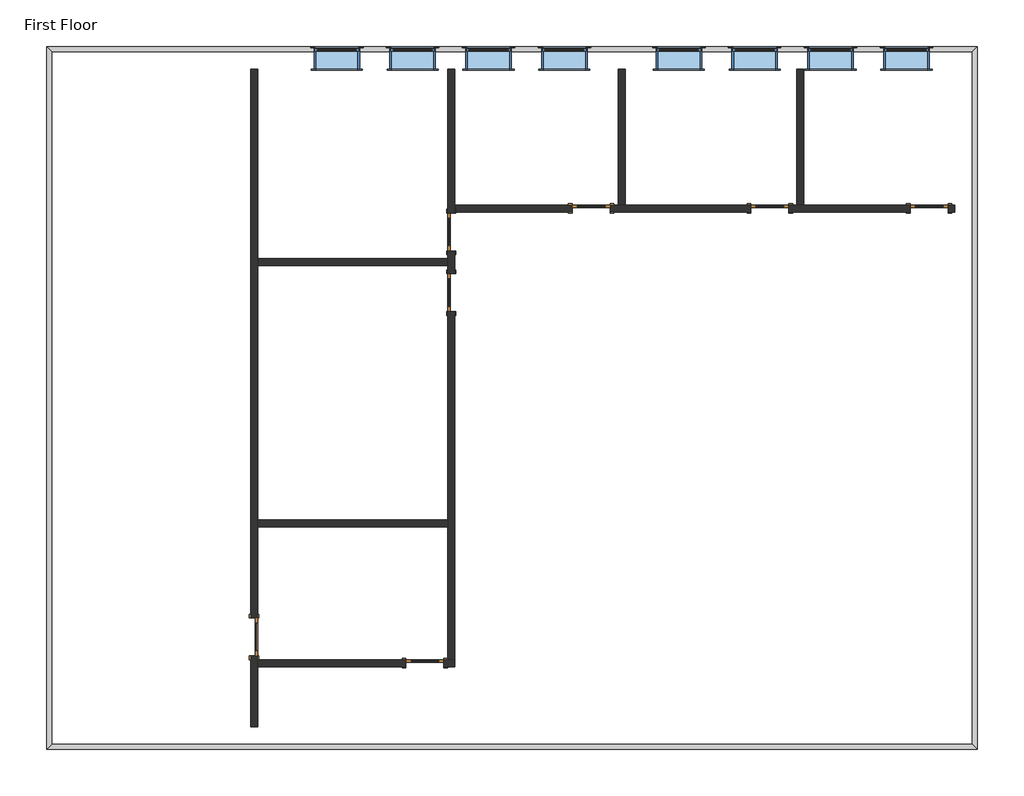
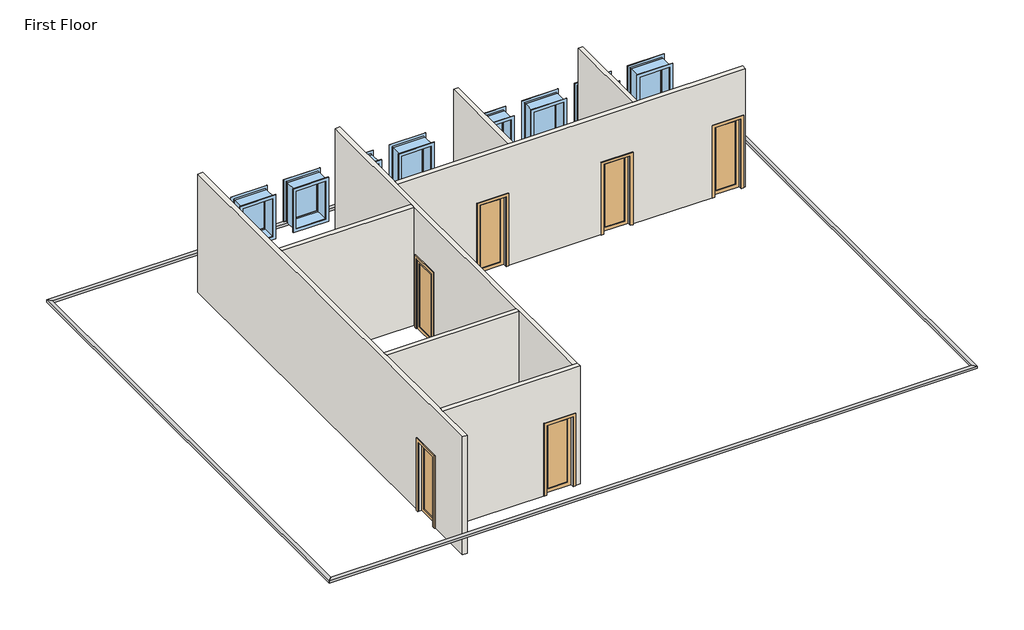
# One storey: 8 walls, 8 windows, 7 doors, 4 proxies.
"""IFC4 building model written with IfcOpenShell, lengths in millimetres."""

import ifcopenshell
import ifcopenshell.guid

model = None  # the IFC model being written
_history = None  # IfcOwnerHistory: only IFC2X3 demands one
_inside = {}  # id of a spatial element -> (the spatial element, [elements in it])
_under = {}  # id of a project, library or spatial element -> (it, [spatial elements below it])
_declared = {}  # id of a project -> (the project, [libraries it declares])
_typed = {}  # id of a type object -> (the type object, [elements of that type])
_made_of = {}  # id of a material, layer set ... -> (it, [elements and type objects made of it])


def new_model(schema):
    """Start an empty IFC model of exactly this schema.

    Asked for "IFC4X3", IfcOpenShell would pick the latest addendum, in which some entities
    have other attributes; the version numbers below select the first issue.
    IFC2X3 requires an IfcOwnerHistory on every rooted entity: one is made here for all.
    """
    global model, _history
    if schema == "IFC4X3":
        model = ifcopenshell.file(schema_version=(4, 3, 0, 0))
    else:
        model = ifcopenshell.file(schema=schema)
    _inside.clear()
    _under.clear()
    _declared.clear()
    _typed.clear()
    _made_of.clear()
    _history = None
    if model.schema == "IFC2X3":
        org = make("IfcOrganization", Name="unknown")
        user = make(
            "IfcPersonAndOrganization",
            ThePerson=make("IfcPerson", FamilyName="unknown"),
            TheOrganization=org,
        )
        app = make(
            "IfcApplication",
            ApplicationDeveloper=org,
            Version="unknown",
            ApplicationFullName="unknown",
            ApplicationIdentifier="unknown",
        )
        _history = make(
            "IfcOwnerHistory",
            OwningUser=user,
            OwningApplication=app,
            ChangeAction="ADDED",
            CreationDate=0,
        )
    return model


def make(cls, **values):
    """One entity of the class cls with the attributes given. An attribute that is None is left unset."""
    return model.create_entity(
        cls, **{name: value for name, value in values.items() if value is not None}
    )


def rooted(cls, **values):
    """An entity with a GlobalId (a new one), such as an element, a storey or a relation."""
    return make(cls, GlobalId=ifcopenshell.guid.new(), OwnerHistory=_history, **values)


def si_unit(unit_type, name, prefix=None):
    """IfcSIUnit, for example si_unit("LENGTHUNIT", "METRE", prefix="MILLI")."""
    return make("IfcSIUnit", UnitType=unit_type, Prefix=prefix, Name=name)


def assignment(units):
    """IfcUnitAssignment: the units of a project."""
    return None if units is None else make("IfcUnitAssignment", Units=units)


def point(xyz):
    """IfcCartesianPoint."""
    return None if xyz is None else make("IfcCartesianPoint", Coordinates=xyz)


def direction(xyz):
    """IfcDirection."""
    return None if xyz is None else make("IfcDirection", DirectionRatios=xyz)


def frame(location, z_axis=None, x_axis=None):
    """IfcAxis2Placement3D, a coordinate frame: its origin and axes. An axis left out is left unset."""
    return make(
        "IfcAxis2Placement3D",
        Location=point(location),
        Axis=direction(z_axis),
        RefDirection=direction(x_axis),
    )


def origin():
    """The frame at (0, 0, 0) with its axes left unset."""
    return frame((0.0, 0.0, 0.0))


def place(relative_to, where):
    """IfcLocalPlacement: puts the frame where relative to a parent placement (None: the world)."""
    return make(
        "IfcLocalPlacement", PlacementRelTo=relative_to, RelativePlacement=where
    )


def context(
    kind, dimensions, precision=None, world=None, true_north=None, identifier=None
):
    """IfcGeometricRepresentationContext, for example the 3D "Model" context."""
    return make(
        "IfcGeometricRepresentationContext",
        ContextIdentifier=identifier,
        ContextType=kind,
        CoordinateSpaceDimension=dimensions,
        Precision=precision,
        WorldCoordinateSystem=world,
        TrueNorth=true_north,
    )


def project(units=None, contexts=None):
    """IfcProject with its units and contexts."""
    return rooted(
        "IfcProject",
        Name="project",
        RepresentationContexts=contexts,
        UnitsInContext=assignment(units),
    )


def spatial(cls, under=None, at=None, **own):
    """A site, building, storey or space (cls), placed at a placement, below another one or the project."""
    s = rooted(cls, ObjectPlacement=at, **own)
    if under is not None:
        _under.setdefault(under.id(), (under, []))[1].append(s)
    return s


def polyline(points):
    """IfcPolyline through the points."""
    return make("IfcPolyline", Points=[point(p) for p in points])


def outline(outer, holes=None, kind="AREA"):
    """IfcArbitraryClosedProfileDef: a profile drawn as a closed curve; with holes, ...WithVoids."""
    if holes is None:
        return make("IfcArbitraryClosedProfileDef", ProfileType=kind, OuterCurve=outer)
    return make(
        "IfcArbitraryProfileDefWithVoids",
        ProfileType=kind,
        OuterCurve=outer,
        InnerCurves=holes,
    )


def extrude(swept, where, along, depth):
    """IfcExtrudedAreaSolid: the profile swept, set in the frame where, extruded along a direction by depth."""
    return make(
        "IfcExtrudedAreaSolid",
        SweptArea=swept,
        Position=where,
        ExtrudedDirection=direction(along),
        Depth=depth,
    )


def faces_of(points, faces, orient=None, outer=None):
    """IfcFace entities. A face is a list of loops; a loop is a list of indices into points, from 0.

    orient and outer hold one flag for each loop. By default every Orientation is true, the
    first loop of a face is its IfcFaceOuterBound and the others are IfcFaceBound.
    """
    made = []
    for i, loops in enumerate(faces):
        bounds = []
        for j, loop in enumerate(loops):
            is_outer = j == 0 if outer is None else outer[i][j]
            bounds.append(
                make(
                    "IfcFaceOuterBound" if is_outer else "IfcFaceBound",
                    Bound=make("IfcPolyLoop", Polygon=[points[k] for k in loop]),
                    Orientation=True if orient is None else orient[i][j],
                )
            )
        made.append(make("IfcFace", Bounds=bounds))
    return made


def faceted_brep(points, faces, orient=None, outer=None, voids=None):
    """IfcFacetedBrep: a solid bounded by flat faces; with voids (closed shells), ...WithVoids."""
    shared = [point(p) for p in points]
    hull = make("IfcClosedShell", CfsFaces=faces_of(shared, faces, orient, outer))
    if voids is None:
        return make("IfcFacetedBrep", Outer=hull)
    return make(
        "IfcFacetedBrepWithVoids",
        Outer=hull,
        Voids=[
            make(cls, CfsFaces=faces_of(shared, fs, o, b)) for cls, fs, o, b in voids
        ],
    )


def shape(context_of_items, identifier, shape_type, items):
    """IfcShapeRepresentation: the items that make up one representation, for example the "Body"."""
    return make(
        "IfcShapeRepresentation",
        ContextOfItems=context_of_items,
        RepresentationIdentifier=identifier,
        RepresentationType=shape_type,
        Items=items,
    )


def source(mapping_origin, context_of_items, identifier, shape_type, items):
    """IfcRepresentationMap: a shape defined once, which mapped items show again and again."""
    return make(
        "IfcRepresentationMap",
        MappingOrigin=mapping_origin,
        MappedRepresentation=shape(context_of_items, identifier, shape_type, items),
    )


def transform(
    local_origin,
    x_axis=None,
    y_axis=None,
    z_axis=None,
    scale=None,
    scale2=None,
    scale3=None,
    uniform=True,
):
    """IfcCartesianTransformationOperator3D, or its non-uniform kind. x_axis, y_axis, z_axis: its Axis1, 2, 3."""
    if uniform:
        return make(
            "IfcCartesianTransformationOperator3D",
            Axis1=direction(x_axis),
            Axis2=direction(y_axis),
            LocalOrigin=point(local_origin),
            Scale=scale,
            Axis3=direction(z_axis),
        )
    return make(
        "IfcCartesianTransformationOperator3DnonUniform",
        Axis1=direction(x_axis),
        Axis2=direction(y_axis),
        LocalOrigin=point(local_origin),
        Scale=scale,
        Axis3=direction(z_axis),
        Scale2=scale2,
        Scale3=scale3,
    )


def mapped(mapping_source, mapping_target):
    """IfcMappedItem: shows the shape of a source again, moved by a transform."""
    return make(
        "IfcMappedItem", MappingSource=mapping_source, MappingTarget=mapping_target
    )


def made_of(thing, what):
    """Note that an element or type object is made of a material, layer set ...; save() writes the relation."""
    if what is not None:
        _made_of.setdefault(what.id(), (what, []))[1].append(thing)
    return thing


def element(
    cls,
    number,
    at=None,
    inside=None,
    cuts=None,
    type_object=None,
    material=None,
    context=None,
    identifier="Body",
    shape_type=None,
    held_by="IfcProductDefinitionShape",
    body=None,
    shapes=None,
    **own,
):
    """One element of the class cls, such as IfcWall. Its Tag is "e" and its number.

    at: its placement. inside: the storey or other place that contains it. cuts: it is an
    opening in that element (IfcRelVoidsElement). A single representation is given by context,
    identifier, shape_type and body (its items); several are given by shapes. held_by: the class
    of the entity that holds the representations. save() writes the other relations.
    """
    e = rooted(cls, Tag="e%d" % number, ObjectPlacement=at, **own)
    if body is not None:
        shapes = [shape(context, identifier, shape_type, body)]
    if shapes is not None:
        e.Representation = make(held_by, Representations=shapes)
    if inside is not None:
        _inside.setdefault(inside.id(), (inside, []))[1].append(e)
    if cuts is not None:
        rooted(
            "IfcRelVoidsElement", RelatingBuildingElement=cuts, RelatedOpeningElement=e
        )
    if type_object is not None:
        _typed.setdefault(type_object.id(), (type_object, []))[1].append(e)
    return made_of(e, material)


def aggregate(whole, parts):
    """IfcRelAggregates: a whole, such as a stair, and the parts it consists of."""
    return rooted("IfcRelAggregates", RelatingObject=whole, RelatedObjects=parts)


def save(model, path):
    """Write the relations noted so far, then the file.

    IfcRelAggregates (storeys below a building ...), IfcRelContainedInSpatialStructure (elements
    in a storey), IfcRelDefinesByType, IfcRelAssociatesMaterial and IfcRelDeclares: one each for
    every whole, place, type object, material and project.
    """
    for whole, parts in _under.values():
        aggregate(whole, parts)
    for where, things in _inside.values():
        rooted(
            "IfcRelContainedInSpatialStructure",
            RelatedElements=things,
            RelatingStructure=where,
        )
    for kind, things in _typed.values():
        rooted("IfcRelDefinesByType", RelatedObjects=things, RelatingType=kind)
    for what, things in _made_of.values():
        rooted("IfcRelAssociatesMaterial", RelatedObjects=things, RelatingMaterial=what)
    for by, libraries in _declared.values():
        rooted("IfcRelDeclares", RelatingContext=by, RelatedDefinitions=libraries)
    model.write(path)


def m_single_glass_1_0762_x_2134mm_f7d00e6c(model_context):
    return source(origin(), model_context, "Body", "SweptSolid", [
        extrude(outline(polyline([(2134.0, 381.0), (0.0, 381.0), (0.0, 457.0), (2210.0, 457.0), (2210.0, -457.0), (0.0, -457.0), (0.0, -381.0), (2134.0, -381.0), (2134.0, 381.0)])), frame((0.0, 69.25, 0.0), z_axis=(0.0, 1.0, 0.0), x_axis=(0.0, 0.0, 1.0)), (0.0, 0.0, 1.0), 25.0),
        extrude(outline(polyline([(2134.0, 381.0), (0.0, 381.0), (0.0, 457.0), (2210.0, 457.0), (2210.0, -457.0), (0.0, -457.0), (0.0, -381.0), (2134.0, -381.0), (2134.0, 381.0)])), frame((0.0, -94.25, 0.0), z_axis=(0.0, 1.0, 0.0), x_axis=(0.0, 0.0, 1.0)), (0.0, 0.0, 1.0), 25.0),
        extrude(outline(polyline([(279.0, -40.675), (279.0, -47.025), (-279.0, -47.025), (-279.0, -40.675), (279.0, -40.675)])), frame((0.0, 0.0, 102.0), z_axis=(0.0, 0.0, 1.0), x_axis=(1.0, 0.0, 0.0)), (0.0, 0.0, 1.0), 1930.0),
        extrude(outline(polyline([(2134.0, 381.0), (2134.0, -381.0), (0.0, -381.0), (0.0, 381.0), (2134.0, 381.0)]), holes=[polyline([(2032.0, -279.0), (2032.0, 279.0), (102.0, 279.0), (102.0, -279.0), (2032.0, -279.0)])]), frame((0.0, -69.25, 0.0), z_axis=(0.0, 1.0, 0.0), x_axis=(0.0, 0.0, 1.0)), (0.0, 0.0, 1.0), 51.0),
    ])


def m_single_glass_1_0762_x_2134mm_cf50c2e0(model_context):
    return source(origin(), model_context, "Body", "SweptSolid", [
        extrude(outline(polyline([(2134.0, 381.0), (0.0, 381.0), (0.0, 457.0), (2210.0, 457.0), (2210.0, -457.0), (0.0, -457.0), (0.0, -381.0), (2134.0, -381.0), (2134.0, 381.0)])), frame((0.0, -94.25, 0.0), z_axis=(0.0, 1.0, 0.0), x_axis=(0.0, 0.0, 1.0)), (0.0, 0.0, 1.0), 25.0),
        extrude(outline(polyline([(2134.0, 381.0), (0.0, 381.0), (0.0, 457.0), (2210.0, 457.0), (2210.0, -457.0), (0.0, -457.0), (0.0, -381.0), (2134.0, -381.0), (2134.0, 381.0)])), frame((0.0, 69.25, 0.0), z_axis=(0.0, 1.0, 0.0), x_axis=(0.0, 0.0, 1.0)), (0.0, 0.0, 1.0), 25.0),
        extrude(outline(polyline([(279.0, 40.675), (-279.0, 40.675), (-279.0, 47.025), (279.0, 47.025), (279.0, 40.675)])), frame((0.0, 0.0, 102.0), z_axis=(0.0, 0.0, 1.0), x_axis=(1.0, 0.0, 0.0)), (0.0, 0.0, 1.0), 1930.0),
        extrude(outline(polyline([(2134.0, 381.0), (2134.0, -381.0), (0.0, -381.0), (0.0, 381.0), (2134.0, 381.0)]), holes=[polyline([(2032.0, -279.0), (2032.0, 279.0), (102.0, 279.0), (102.0, -279.0), (2032.0, -279.0)])]), frame((0.0, 18.25, 0.0), z_axis=(0.0, 1.0, 0.0), x_axis=(0.0, 0.0, 1.0)), (0.0, 0.0, 1.0), 51.0),
    ])


def m_awning_with_trim_0915_x_1220mm_2caa384f(model_context):
    return source(origin(), model_context, "Body", "SweptSolid", [
        extrude(outline(polyline([(-527.45, -240.2), (-527.45, -214.5), (527.45, -214.5), (527.45, -240.2), (-527.45, -240.2)])), frame((0.0, 0.0, 915.0), z_axis=(0.0, 0.0, 1.0), x_axis=(1.0, 0.0, 0.0)), (0.0, 0.0, 1.0), 19.05),
        extrude(outline(polyline([(2115.95, -438.45), (2115.95, 438.45), (934.05, 438.45), (934.05, 527.45), (2204.95, 527.45), (2204.95, -527.45), (934.05, -527.45), (934.05, -438.45), (2115.95, -438.45)])), frame((0.0, -227.5, 0.0), z_axis=(0.0, 1.0, 0.0), x_axis=(0.0, 0.0, 1.0)), (0.0, 0.0, 1.0), 13.0),
        extrude(outline(polyline([(2192.25, 514.75), (2192.25, -514.75), (857.75, -514.75), (857.75, 514.75), (2192.25, 514.75)]), holes=[polyline([(2103.25, 425.75), (946.75, 425.75), (946.75, -425.75), (2103.25, -425.75), (2103.25, 425.75)])]), frame((0.0, 214.5, 0.0), z_axis=(0.0, 1.0, 0.0), x_axis=(0.0, 0.0, 1.0)), (0.0, 0.0, 1.0), 19.0),
        extrude(outline(polyline([(394.0, -166.925), (394.0, -179.625), (-394.0, -179.625), (-394.0, -166.925), (394.0, -166.925)])), frame((0.0, 0.0, 978.5), z_axis=(0.0, 0.0, 1.0), x_axis=(1.0, 0.0, 0.0)), (0.0, 0.0, 1.0), 1093.0),
        extrude(outline(polyline([(2115.95, -438.45), (934.05, -438.45), (934.05, 438.45), (2115.95, 438.45), (2115.95, -438.45)]), holes=[polyline([(2071.5, -394.0), (2071.5, 394.0), (978.5, 394.0), (978.5, -394.0), (2071.5, -394.0)])]), frame((0.0, -195.5, 0.0), z_axis=(0.0, 1.0, 0.0), x_axis=(0.0, 0.0, 1.0)), (0.0, 0.0, 1.0), 44.45),
        extrude(outline(polyline([(2135.0, -457.5), (915.0, -457.5), (915.0, 457.5), (2135.0, 457.5), (2135.0, -457.5)]), holes=[polyline([(2103.25, -425.75), (2103.25, 425.75), (946.75, 425.75), (946.75, -425.75), (2103.25, -425.75)])]), frame((0.0, -151.05, 0.0), z_axis=(0.0, 1.0, 0.0), x_axis=(0.0, 0.0, 1.0)), (0.0, 0.0, 1.0), 365.55),
        extrude(outline(polyline([(2135.0, 457.5), (2135.0, -457.5), (915.0, -457.5), (915.0, 457.5), (2135.0, 457.5)]), holes=[polyline([(2115.95, 438.45), (934.05, 438.45), (934.05, -438.45), (2115.95, -438.45), (2115.95, 438.45)])]), frame((0.0, -214.5, 0.0), z_axis=(0.0, 1.0, 0.0), x_axis=(0.0, 0.0, 1.0)), (0.0, 0.0, 1.0), 63.45),
    ])


def m_awning_with_trim_0915_x_1220mm_1a66d356(model_context):
    return source(origin(), model_context, "Body", "SweptSolid", [
        extrude(outline(polyline([(-527.45, 240.2), (527.45, 240.2), (527.45, 214.5), (-527.45, 214.5), (-527.45, 240.2)])), frame((0.0, 0.0, 915.0), z_axis=(0.0, 0.0, 1.0), x_axis=(1.0, 0.0, 0.0)), (0.0, 0.0, 1.0), 19.05),
        extrude(outline(polyline([(2115.95, -438.45), (2115.95, 438.45), (934.05, 438.45), (934.05, 527.45), (2204.95, 527.45), (2204.95, -527.45), (934.05, -527.45), (934.05, -438.45), (2115.95, -438.45)])), frame((0.0, 214.5, 0.0), z_axis=(0.0, 1.0, 0.0), x_axis=(0.0, 0.0, 1.0)), (0.0, 0.0, 1.0), 13.0),
        extrude(outline(polyline([(2192.25, 514.75), (2192.25, -514.75), (857.75, -514.75), (857.75, 514.75), (2192.25, 514.75)]), holes=[polyline([(2103.25, 425.75), (946.75, 425.75), (946.75, -425.75), (2103.25, -425.75), (2103.25, 425.75)])]), frame((0.0, -233.5, 0.0), z_axis=(0.0, 1.0, 0.0), x_axis=(0.0, 0.0, 1.0)), (0.0, 0.0, 1.0), 19.0),
        extrude(outline(polyline([(394.0, 166.925), (-394.0, 166.925), (-394.0, 179.625), (394.0, 179.625), (394.0, 166.925)])), frame((0.0, 0.0, 978.5), z_axis=(0.0, 0.0, 1.0), x_axis=(1.0, 0.0, 0.0)), (0.0, 0.0, 1.0), 1093.0),
        extrude(outline(polyline([(2115.95, -438.45), (934.05, -438.45), (934.05, 438.45), (2115.95, 438.45), (2115.95, -438.45)]), holes=[polyline([(2071.5, -394.0), (2071.5, 394.0), (978.5, 394.0), (978.5, -394.0), (2071.5, -394.0)])]), frame((0.0, 151.05, 0.0), z_axis=(0.0, 1.0, 0.0), x_axis=(0.0, 0.0, 1.0)), (0.0, 0.0, 1.0), 44.45),
        extrude(outline(polyline([(2135.0, -457.5), (915.0, -457.5), (915.0, 457.5), (2135.0, 457.5), (2135.0, -457.5)]), holes=[polyline([(2103.25, -425.75), (2103.25, 425.75), (946.75, 425.75), (946.75, -425.75), (2103.25, -425.75)])]), frame((0.0, -214.5, 0.0), z_axis=(0.0, 1.0, 0.0), x_axis=(0.0, 0.0, 1.0)), (0.0, 0.0, 1.0), 365.55),
        extrude(outline(polyline([(2135.0, 457.5), (2135.0, -457.5), (915.0, -457.5), (915.0, 457.5), (2135.0, 457.5)]), holes=[polyline([(2115.95, 438.45), (934.05, 438.45), (934.05, -438.45), (2115.95, -438.45), (2115.95, 438.45)])]), frame((0.0, 151.05, 0.0), z_axis=(0.0, 1.0, 0.0), x_axis=(0.0, 0.0, 1.0)), (0.0, 0.0, 1.0), 63.45),
    ])


model = new_model("IFC4")

# Units and contexts
model_context = context("Model", 3, world=origin())
ifc_project = project(units=[si_unit("LENGTHUNIT", "METRE", prefix="MILLI")], contexts=[model_context])

# Site, building, storey
site = spatial("IfcSite", under=ifc_project)
building = spatial("IfcBuilding", under=site)
storey = spatial("IfcBuildingStorey", under=building, Name="First Floor", Elevation=3600.0)

# Proxies
placement = place(None, origin())
element("IfcBuildingElementProxy", 1, Name="Reveals", at=placement, inside=storey, context=model_context, shape_type="SweptSolid", body=[
    extrude(outline(polyline([(-1525.2150684, 3743.407772), (-1627.7150684, 3845.907772), (17077.2849316, 3845.907772), (16974.7849316, 3743.407772), (-1525.2150684, 3743.407772)])), frame((0.0, 0.0, 4449.0), z_axis=(0.0, 0.0, 1.0), x_axis=(1.0, 0.0, 0.0)), (0.0, 0.0, 1.0), 75.0),
])
element("IfcBuildingElementProxy", 2, Name="Reveals", at=placement, inside=storey, context=model_context, shape_type="SweptSolid", body=[
    extrude(outline(polyline([(-1525.2150684, -10184.592228), (-1627.7150684, -10287.092228), (-1627.7150684, 3845.907772), (-1525.2150684, 3743.407772), (-1525.2150684, -10184.592228)])), frame((0.0, 0.0, 4449.0), z_axis=(0.0, 0.0, 1.0), x_axis=(1.0, 0.0, 0.0)), (0.0, 0.0, 1.0), 75.0),
])
element("IfcBuildingElementProxy", 3, Name="Reveals", at=placement, inside=storey, context=model_context, shape_type="SweptSolid", body=[
    extrude(outline(polyline([(16974.7849316, -10184.592228), (17077.2849316, -10287.092228), (-1627.7150684, -10287.092228), (-1525.2150684, -10184.592228), (16974.7849316, -10184.592228)])), frame((0.0, 0.0, 4449.0), z_axis=(0.0, 0.0, 1.0), x_axis=(1.0, 0.0, 0.0)), (0.0, 0.0, 1.0), 75.0),
])
element("IfcBuildingElementProxy", 4, Name="Reveals", at=placement, inside=storey, context=model_context, shape_type="SweptSolid", body=[
    extrude(outline(polyline([(16974.7849316, 3743.407772), (17077.2849316, 3845.907772), (17077.2849316, -10287.092228), (16974.7849316, -10184.592228), (16974.7849316, 3743.407772)])), frame((0.0, 0.0, 4449.0), z_axis=(0.0, 0.0, 1.0), x_axis=(1.0, 0.0, 0.0)), (0.0, 0.0, 1.0), 75.0),
])

# Doors
m_single_glass_1_0762_x_2134mm_shape = m_single_glass_1_0762_x_2134mm_f7d00e6c(model_context)
element("IfcDoor", 5, ObjectType="M_Single-Glass 1 : 0762 x 2134mm", at=placement, inside=storey, context=model_context, shape_type="MappedRepresentation", body=[
    mapped(m_single_glass_1_0762_x_2134mm_shape, transform((6504.7849316, 118.507772, 3600.0), x_axis=(0.0, -1.0, 0.0), y_axis=(1.0, 0.0, 0.0), z_axis=(0.0, 0.0, 1.0))),
])
m_single_glass_1_0762_x_2134mm_2_shape = m_single_glass_1_0762_x_2134mm_cf50c2e0(model_context)
element("IfcDoor", 6, ObjectType="M_Single-Glass 1 : 0762 x 2134mm", at=placement, inside=storey, context=model_context, shape_type="MappedRepresentation", body=[
    mapped(m_single_glass_1_0762_x_2134mm_2_shape, transform((2542.7849316, -8025.342228, 3600.0), x_axis=(0.0, -1.0, 0.0), y_axis=(1.0, 0.0, 0.0), z_axis=(0.0, 0.0, 1.0))),
])
element("IfcDoor", 7, ObjectType="M_Single-Glass 1 : 0762 x 2134mm", at=placement, inside=storey, context=model_context, shape_type="MappedRepresentation", body=[
    mapped(m_single_glass_1_0762_x_2134mm_2_shape, transform((5975.5349316, -8554.592228, 3600.0), x_axis=(1.0, 0.0, 0.0), y_axis=(0.0, 1.0, 0.0), z_axis=(0.0, 0.0, 1.0))),
])
element("IfcDoor", 8, ObjectType="M_Single-Glass 1 : 0762 x 2134mm", at=placement, inside=storey, context=model_context, shape_type="MappedRepresentation", body=[
    mapped(m_single_glass_1_0762_x_2134mm_2_shape, transform((6504.7849316, -1101.492228, 3600.0), x_axis=(0.0, 1.0, 0.0), y_axis=(-1.0, 0.0, 0.0), z_axis=(0.0, 0.0, 1.0))),
])
element("IfcDoor", 9, ObjectType="M_Single-Glass 1 : 0762 x 2134mm", at=placement, inside=storey, context=model_context, shape_type="MappedRepresentation", body=[
    mapped(m_single_glass_1_0762_x_2134mm_2_shape, transform((9317.0349316, 589.407772, 3600.0), x_axis=(1.0, 0.0, 0.0), y_axis=(0.0, 1.0, 0.0), z_axis=(0.0, 0.0, 1.0))),
])
element("IfcDoor", 10, ObjectType="M_Single-Glass 1 : 0762 x 2134mm", at=placement, inside=storey, context=model_context, shape_type="MappedRepresentation", body=[
    mapped(m_single_glass_1_0762_x_2134mm_2_shape, transform((12905.7849316, 589.407772, 3600.0), x_axis=(1.0, 0.0, 0.0), y_axis=(0.0, 1.0, 0.0), z_axis=(0.0, 0.0, 1.0))),
])
element("IfcDoor", 11, ObjectType="M_Single-Glass 1 : 0762 x 2134mm", at=placement, inside=storey, context=model_context, shape_type="MappedRepresentation", body=[
    mapped(m_single_glass_1_0762_x_2134mm_2_shape, transform((16106.7849316, 589.407772, 3600.0), x_axis=(1.0, 0.0, 0.0), y_axis=(0.0, 1.0, 0.0), z_axis=(0.0, 0.0, 1.0))),
])

# Walls
element("IfcWall", 12, ObjectType="Interior - 138mm Partition (1-hr)", at=placement, inside=storey, context=model_context, shape_type="Brep", body=[
    faceted_brep([(2473.5349316, -8406.342228, 5734.0), (2473.5349316, -8406.342228, 3600.0), (2473.5349316, -9830.592228, 3600.0), (2473.5349316, -9830.592228, 7200.0), (2473.5349316, 3389.407772, 7200.0), (2473.5349316, 3389.407772, 3600.0), (2473.5349316, -7644.342228, 3600.0), (2473.5349316, -7644.342228, 5734.0), (2612.0349316, -9830.592228, 3600.0), (2612.0349316, -8623.842228, 3600.0), (2612.0349316, -8485.342228, 3600.0), (2612.0349316, -8406.342228, 3600.0), (2612.0349316, -8406.342228, 5734.0), (2612.0349316, -7644.342228, 5734.0), (2612.0349316, -7644.342228, 3600.0), (2612.0349316, -5811.592228, 3600.0), (2612.0349316, -5673.092228, 3600.0), (2612.0349316, -560.742228, 3600.0), (2612.0349316, -422.242228, 3600.0), (2612.0349316, 3389.407772, 3600.0), (2612.0349316, 3389.407772, 7200.0), (2612.0349316, -422.242228, 7200.0), (2612.0349316, -560.742228, 7200.0), (2612.0349316, -5673.092228, 7200.0), (2612.0349316, -5811.592228, 7200.0), (2612.0349316, -8485.342228, 7200.0), (2612.0349316, -8623.842228, 7200.0), (2612.0349316, -9830.592228, 7200.0)], [[[0, 1, 2, 3, 4, 5, 6, 7]], [[8, 9, 10, 11, 12, 13, 14, 15, 16, 17, 18, 19, 20, 21, 22, 23, 24, 25, 26, 27]], [[6, 5, 19, 18, 17, 16, 15, 14]], [[2, 1, 11, 10, 9, 8]], [[4, 3, 27, 26, 25, 24, 23, 22, 21, 20]], [[12, 11, 1, 0]], [[13, 12, 0, 7]], [[14, 13, 7, 6]], [[5, 4, 20, 19]], [[3, 2, 8, 27]]]),
])
element("IfcWall", 13, ObjectType="Interior - 138mm Partition (1-hr)", at=placement, inside=storey, context=model_context, shape_type="Brep", body=[
    faceted_brep([(6356.5349316, -8623.842228, 5734.0), (6356.5349316, -8623.842228, 3600.0), (6574.0349316, -8623.842228, 3600.0), (6574.0349316, -8623.842228, 7200.0), (2612.0349316, -8623.842228, 7200.0), (2612.0349316, -8623.842228, 3600.0), (5594.5349316, -8623.842228, 3600.0), (5594.5349316, -8623.842228, 5734.0), (6574.0349316, -8485.342228, 3600.0), (6435.5349316, -8485.342228, 3600.0), (6356.5349316, -8485.342228, 3600.0), (6356.5349316, -8485.342228, 5734.0), (5594.5349316, -8485.342228, 5734.0), (5594.5349316, -8485.342228, 3600.0), (2612.0349316, -8485.342228, 3600.0), (2612.0349316, -8485.342228, 7200.0), (6435.5349316, -8485.342228, 7200.0), (6574.0349316, -8485.342228, 7200.0)], [[[0, 1, 2, 3, 4, 5, 6, 7]], [[8, 9, 10, 11, 12, 13, 14, 15, 16, 17]], [[6, 5, 14, 13]], [[2, 1, 10, 9, 8]], [[4, 3, 17, 16, 15]], [[5, 4, 15, 14]], [[3, 2, 8, 17]], [[11, 10, 1, 0]], [[12, 11, 0, 7]], [[13, 12, 7, 6]]]),
])
element("IfcWall", 14, ObjectType="Interior - 138mm Partition (1-hr)", at=placement, inside=storey, context=model_context, shape_type="Brep", body=[
    faceted_brep([(6574.0349316, -720.492228, 3600.0), (6574.0349316, -262.492228, 3600.0), (6574.0349316, -262.492228, 5734.0), (6574.0349316, 499.507772, 5734.0), (6574.0349316, 499.507772, 3600.0), (6574.0349316, 520.157772, 3600.0), (6574.0349316, 658.657772, 3600.0), (6574.0349316, 3389.407772, 3600.0), (6574.0349316, 3389.407772, 7200.0), (6574.0349316, 658.657772, 7200.0), (6574.0349316, 520.157772, 7200.0), (6574.0349316, -8485.342228, 7200.0), (6574.0349316, -8485.342228, 3600.0), (6574.0349316, -1482.492228, 3600.0), (6574.0349316, -1482.492228, 5734.0), (6574.0349316, -720.492228, 5734.0), (6435.5349316, -262.492228, 5734.0), (6435.5349316, -262.492228, 3600.0), (6435.5349316, -422.242228, 3600.0), (6435.5349316, -560.742228, 3600.0), (6435.5349316, -720.492228, 3600.0), (6435.5349316, -720.492228, 5734.0), (6435.5349316, -1482.492228, 5734.0), (6435.5349316, -1482.492228, 3600.0), (6435.5349316, -5673.092228, 3600.0), (6435.5349316, -5811.592228, 3600.0), (6435.5349316, -8485.342228, 3600.0), (6435.5349316, -8485.342228, 7200.0), (6435.5349316, -5811.592228, 7200.0), (6435.5349316, -5673.092228, 7200.0), (6435.5349316, -560.742228, 7200.0), (6435.5349316, -422.242228, 7200.0), (6435.5349316, 3389.407772, 7200.0), (6435.5349316, 3389.407772, 3600.0), (6435.5349316, 499.507772, 3600.0), (6435.5349316, 499.507772, 5734.0)], [[[0, 1, 2, 3, 4, 5, 6, 7, 8, 9, 10, 11, 12, 13, 14, 15]], [[16, 17, 18, 19, 20, 21, 22, 23, 24, 25, 26, 27, 28, 29, 30, 31, 32, 33, 34, 35]], [[13, 12, 26, 25, 24, 23]], [[34, 33, 7, 6, 5, 4]], [[20, 19, 18, 17, 1, 0]], [[11, 10, 9, 8, 32, 31, 30, 29, 28, 27]], [[12, 11, 27, 26]], [[21, 20, 0, 15]], [[22, 21, 15, 14]], [[23, 22, 14, 13]], [[2, 1, 17, 16]], [[3, 2, 16, 35]], [[4, 3, 35, 34]], [[8, 7, 33, 32]]]),
])
element("IfcWall", 15, ObjectType="Interior - 138mm Partition (1-hr)", at=placement, inside=storey, context=model_context, shape_type="Brep", body=[
    faceted_brep([(16620.7849316, 658.657772, 3600.0), (16487.7849316, 658.657772, 3600.0), (16487.7849316, 658.657772, 5734.0), (15725.7849316, 658.657772, 5734.0), (15725.7849316, 658.657772, 3600.0), (13585.0349316, 658.657772, 3600.0), (13446.5349316, 658.657772, 3600.0), (13286.7849316, 658.657772, 3600.0), (13286.7849316, 658.657772, 5734.0), (12524.7849316, 658.657772, 5734.0), (12524.7849316, 658.657772, 3600.0), (9996.2849316, 658.657772, 3600.0), (9857.7849316, 658.657772, 3600.0), (9698.0349316, 658.657772, 3600.0), (9698.0349316, 658.657772, 5734.0), (8936.0349316, 658.657772, 5734.0), (8936.0349316, 658.657772, 3600.0), (6574.0349316, 658.657772, 3600.0), (6574.0349316, 658.657772, 7200.0), (9857.7849316, 658.657772, 7200.0), (9996.2849316, 658.657772, 7200.0), (13446.5349316, 658.657772, 7200.0), (13585.0349316, 658.657772, 7200.0), (16620.7849316, 658.657772, 7200.0), (16487.7849316, 520.157772, 5734.0), (16487.7849316, 520.157772, 3600.0), (16620.7849316, 520.157772, 3600.0), (16620.7849316, 520.157772, 7200.0), (6574.0349316, 520.157772, 7200.0), (6574.0349316, 520.157772, 3600.0), (8936.0349316, 520.157772, 3600.0), (8936.0349316, 520.157772, 5734.0), (9698.0349316, 520.157772, 5734.0), (9698.0349316, 520.157772, 3600.0), (12524.7849316, 520.157772, 3600.0), (12524.7849316, 520.157772, 5734.0), (13286.7849316, 520.157772, 5734.0), (13286.7849316, 520.157772, 3600.0), (15725.7849316, 520.157772, 3600.0), (15725.7849316, 520.157772, 5734.0)], [[[0, 1, 2, 3, 4, 5, 6, 7, 8, 9, 10, 11, 12, 13, 14, 15, 16, 17, 18, 19, 20, 21, 22, 23]], [[24, 25, 26, 27, 28, 29, 30, 31, 32, 33, 34, 35, 36, 37, 38, 39]], [[30, 29, 17, 16]], [[34, 33, 13, 12, 11, 10]], [[38, 37, 7, 6, 5, 4]], [[26, 25, 1, 0]], [[23, 22, 21, 20, 19, 18, 28, 27]], [[18, 17, 29, 28]], [[14, 13, 33, 32]], [[15, 14, 32, 31]], [[16, 15, 31, 30]], [[8, 7, 37, 36]], [[9, 8, 36, 35]], [[10, 9, 35, 34]], [[2, 1, 25, 24]], [[3, 2, 24, 39]], [[4, 3, 39, 38]], [[0, 23, 27, 26]]]),
])
element("IfcWall", 16, ObjectType="Interior - 138mm Partition (1-hr)", at=placement, inside=storey, context=model_context, shape_type="SweptSolid", body=[
    extrude(outline(polyline([(6435.5349316, -5811.592228), (2612.0349316, -5811.592228), (2612.0349316, -5673.092228), (6435.5349316, -5673.092228), (6435.5349316, -5811.592228)])), frame((0.0, 0.0, 3600.0), z_axis=(0.0, 0.0, 1.0), x_axis=(1.0, 0.0, 0.0)), (0.0, 0.0, 1.0), 3600.0),
])
element("IfcWall", 17, ObjectType="Interior - 138mm Partition (1-hr)", at=placement, inside=storey, context=model_context, shape_type="SweptSolid", body=[
    extrude(outline(polyline([(6435.5349316, -560.742228), (2612.0349316, -560.742228), (2612.0349316, -422.242228), (6435.5349316, -422.242228), (6435.5349316, -560.742228)])), frame((0.0, 0.0, 3600.0), z_axis=(0.0, 0.0, 1.0), x_axis=(1.0, 0.0, 0.0)), (0.0, 0.0, 1.0), 3600.0),
])
element("IfcWall", 18, ObjectType="Interior - 138mm Partition (1-hr)", at=placement, inside=storey, context=model_context, shape_type="SweptSolid", body=[
    extrude(outline(polyline([(9996.2849316, 3389.407772), (9996.2849316, 658.657772), (9857.7849316, 658.657772), (9857.7849316, 3389.407772), (9996.2849316, 3389.407772)])), frame((0.0, 0.0, 3600.0), z_axis=(0.0, 0.0, 1.0), x_axis=(1.0, 0.0, 0.0)), (0.0, 0.0, 1.0), 3600.0),
])
element("IfcWall", 19, ObjectType="Interior - 138mm Partition (1-hr)", at=placement, inside=storey, context=model_context, shape_type="SweptSolid", body=[
    extrude(outline(polyline([(13585.0349316, 3389.407772), (13585.0349316, 658.657772), (13446.5349316, 658.657772), (13446.5349316, 3389.407772), (13585.0349316, 3389.407772)])), frame((0.0, 0.0, 3600.0), z_axis=(0.0, 0.0, 1.0), x_axis=(1.0, 0.0, 0.0)), (0.0, 0.0, 1.0), 3600.0),
])

# Windows
m_awning_with_trim_0915_x_1220mm_shape = m_awning_with_trim_0915_x_1220mm_2caa384f(model_context)
element("IfcWindow", 20, ObjectType="M_Awning with Trim : 0915 x 1220mm", at=placement, inside=storey, context=model_context, shape_type="MappedRepresentation", body=[
    mapped(m_awning_with_trim_0915_x_1220mm_shape, transform((4204.2849316, 3603.907772, 3600.0), x_axis=(-1.0, 0.0, 0.0), y_axis=(0.0, -1.0, 0.0), z_axis=(0.0, 0.0, 1.0))),
])
element("IfcWindow", 21, ObjectType="M_Awning with Trim : 0915 x 1220mm", at=placement, inside=storey, context=model_context, shape_type="MappedRepresentation", body=[
    mapped(m_awning_with_trim_0915_x_1220mm_shape, transform((5728.2849316, 3603.907772, 3600.0), x_axis=(-1.0, 0.0, 0.0), y_axis=(0.0, -1.0, 0.0), z_axis=(0.0, 0.0, 1.0))),
])
element("IfcWindow", 22, ObjectType="M_Awning with Trim : 0915 x 1220mm", at=placement, inside=storey, context=model_context, shape_type="MappedRepresentation", body=[
    mapped(m_awning_with_trim_0915_x_1220mm_shape, transform((7252.2849316, 3603.907772, 3600.0), x_axis=(-1.0, 0.0, 0.0), y_axis=(0.0, -1.0, 0.0), z_axis=(0.0, 0.0, 1.0))),
])
element("IfcWindow", 23, ObjectType="M_Awning with Trim : 0915 x 1220mm", at=placement, inside=storey, context=model_context, shape_type="MappedRepresentation", body=[
    mapped(m_awning_with_trim_0915_x_1220mm_shape, transform((8776.2849316, 3603.907772, 3600.0), x_axis=(-1.0, 0.0, 0.0), y_axis=(0.0, -1.0, 0.0), z_axis=(0.0, 0.0, 1.0))),
])
m_awning_with_trim_0915_x_1220mm_2_shape = m_awning_with_trim_0915_x_1220mm_1a66d356(model_context)
element("IfcWindow", 24, ObjectType="M_Awning with Trim : 0915 x 1220mm", at=placement, inside=storey, context=model_context, shape_type="MappedRepresentation", body=[
    mapped(m_awning_with_trim_0915_x_1220mm_2_shape, transform((15649.7849316, 3603.907772, 3600.0), x_axis=(1.0, 0.0, 0.0), y_axis=(0.0, 1.0, 0.0), z_axis=(0.0, 0.0, 1.0))),
])
element("IfcWindow", 25, ObjectType="M_Awning with Trim : 0915 x 1220mm", at=placement, inside=storey, context=model_context, shape_type="MappedRepresentation", body=[
    mapped(m_awning_with_trim_0915_x_1220mm_2_shape, transform((14125.7849316, 3603.907772, 3600.0), x_axis=(1.0, 0.0, 0.0), y_axis=(0.0, 1.0, 0.0), z_axis=(0.0, 0.0, 1.0))),
])
element("IfcWindow", 26, ObjectType="M_Awning with Trim : 0915 x 1220mm", at=placement, inside=storey, context=model_context, shape_type="MappedRepresentation", body=[
    mapped(m_awning_with_trim_0915_x_1220mm_2_shape, transform((12601.7849316, 3603.907772, 3600.0), x_axis=(1.0, 0.0, 0.0), y_axis=(0.0, 1.0, 0.0), z_axis=(0.0, 0.0, 1.0))),
])
element("IfcWindow", 27, ObjectType="M_Awning with Trim : 0915 x 1220mm", at=placement, inside=storey, context=model_context, shape_type="MappedRepresentation", body=[
    mapped(m_awning_with_trim_0915_x_1220mm_2_shape, transform((11077.7849316, 3603.907772, 3600.0), x_axis=(1.0, 0.0, 0.0), y_axis=(0.0, 1.0, 0.0), z_axis=(0.0, 0.0, 1.0))),
])

save(model, "model.ifc")
